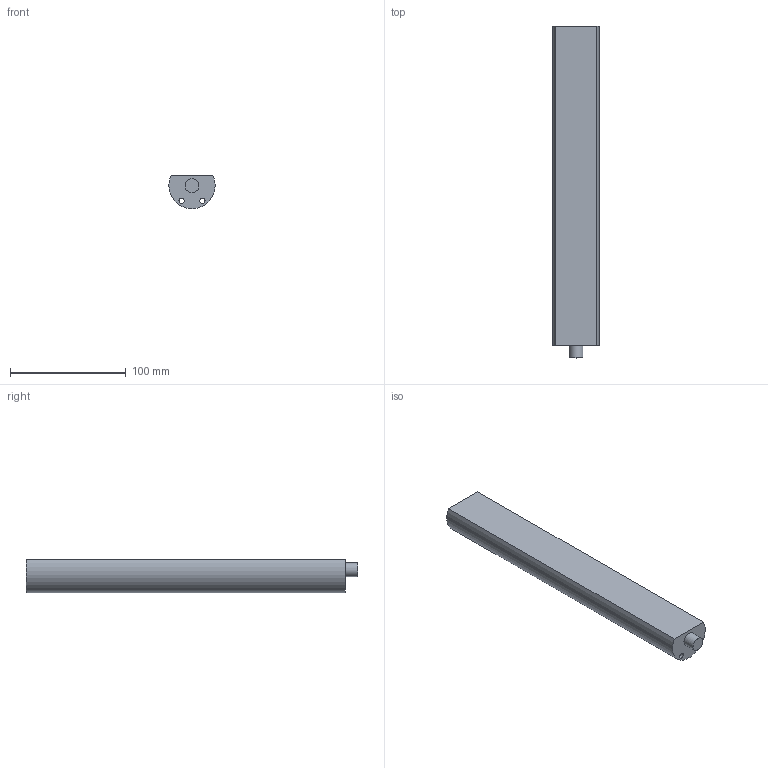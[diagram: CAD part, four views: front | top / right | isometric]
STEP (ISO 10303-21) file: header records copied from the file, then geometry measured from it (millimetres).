
FILE_DESCRIPTION(('FreeCAD Model'),'2;1');
FILE_NAME('Open CASCADE Shape Model','2024-04-10T10:00:20',(''),(''), 'Open CASCADE STEP processor 7.6','FreeCAD','Unknown');
FILE_SCHEMA(('AUTOMOTIVE_DESIGN { 1 0 10303 214 1 1 1 1 }'));
Length unit declared in the file: millimetre
Products named in the file (1): Körper
Bounding box: 39.96 x 287 x 29 mm (x, y, z)
Volume: 261777.4 mm3; surface area: 42460 mm2
Topology: 1 solids, 1 shells, 8 faces, 15 edges, 10 vertices
Faces by surface type: cylinder 4, plane 4
Full cylindrical faces by diameter (mm): 4.5 x2, 12 x1
Entity records: 237 total; most frequent: DIRECTION 41, CARTESIAN_POINT 34, ORIENTED_EDGE 30, AXIS2_PLACEMENT_3D 17, EDGE_CURVE 15, FACE_BOUND 13, EDGE_LOOP 13, VERTEX_POINT 10
